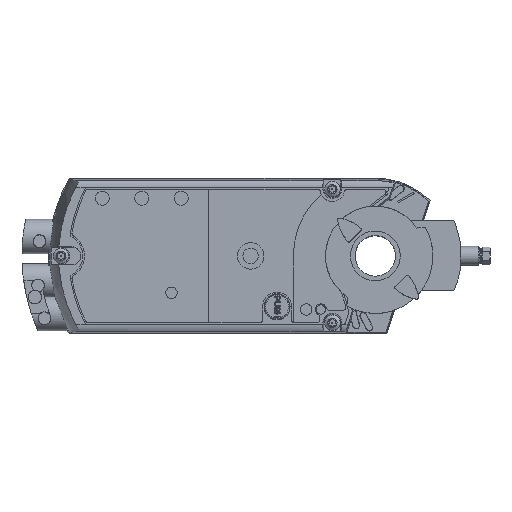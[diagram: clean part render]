
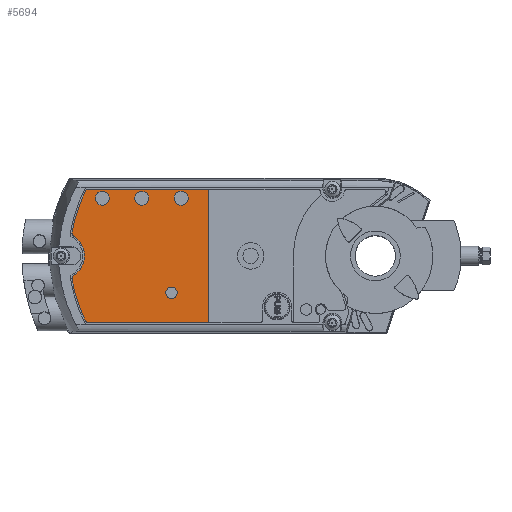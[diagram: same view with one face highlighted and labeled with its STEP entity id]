
A CAD part, top view. The second image highlights one B-rep face of the part: STEP entity #5694.
In plain terms, the highlighted planar face has unit normal (0, 0, 1).
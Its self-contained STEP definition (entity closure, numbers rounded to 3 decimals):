
#5694=ADVANCED_FACE('',(#7359,#7360,#7361,#7362,#7363),#6120,.T.);
#6120=PLANE('',#14474);
#6210=LINE('',#17578,#6731);
#6565=LINE('',#21247,#7086);
#6574=LINE('',#21279,#7095);
#6731=VECTOR('',#14972,1.);
#7086=VECTOR('',#16393,1.);
#7095=VECTOR('',#16432,1.);
#7359=FACE_BOUND('',#7815,.T.);
#7360=FACE_BOUND('',#7816,.T.);
#7361=FACE_BOUND('',#7817,.T.);
#7362=FACE_BOUND('',#7818,.T.);
#7363=FACE_BOUND('',#7819,.T.);
#7815=EDGE_LOOP('',(#9728,#9729,#9730,#9731,#9732,#9733,#9734,#9735,#9736,
#9737));
#7816=EDGE_LOOP('',(#9738));
#7817=EDGE_LOOP('',(#9739));
#7818=EDGE_LOOP('',(#9740));
#7819=EDGE_LOOP('',(#9741));
#9728=ORIENTED_EDGE('',*,*,#11972,.F.);
#9729=ORIENTED_EDGE('',*,*,#12751,.F.);
#9730=ORIENTED_EDGE('',*,*,#12749,.T.);
#9731=ORIENTED_EDGE('',*,*,#12747,.T.);
#9732=ORIENTED_EDGE('',*,*,#12745,.T.);
#9733=ORIENTED_EDGE('',*,*,#12743,.F.);
#9734=ORIENTED_EDGE('',*,*,#12741,.T.);
#9735=ORIENTED_EDGE('',*,*,#12739,.T.);
#9736=ORIENTED_EDGE('',*,*,#12737,.T.);
#9737=ORIENTED_EDGE('',*,*,#12735,.T.);
#9738=ORIENTED_EDGE('',*,*,#12767,.F.);
#9739=ORIENTED_EDGE('',*,*,#12768,.F.);
#9740=ORIENTED_EDGE('',*,*,#12769,.F.);
#9741=ORIENTED_EDGE('',*,*,#12770,.T.);
#11029=VERTEX_POINT('',#17577);
#11030=VERTEX_POINT('',#17579);
#11549=VERTEX_POINT('',#21248);
#11550=VERTEX_POINT('',#21252);
#11551=VERTEX_POINT('',#21256);
#11552=VERTEX_POINT('',#21260);
#11553=VERTEX_POINT('',#21264);
#11554=VERTEX_POINT('',#21268);
#11555=VERTEX_POINT('',#21272);
#11556=VERTEX_POINT('',#21276);
#11559=VERTEX_POINT('',#21314);
#11560=VERTEX_POINT('',#21316);
#11561=VERTEX_POINT('',#21318);
#11562=VERTEX_POINT('',#21320);
#11972=EDGE_CURVE('',#11029,#11030,#6210,.T.);
#12735=EDGE_CURVE('',#11549,#11030,#6565,.T.);
#12737=EDGE_CURVE('',#11550,#11549,#13640,.T.);
#12739=EDGE_CURVE('',#11551,#11550,#13641,.T.);
#12741=EDGE_CURVE('',#11552,#11551,#13642,.T.);
#12743=EDGE_CURVE('',#11552,#11553,#13643,.T.);
#12745=EDGE_CURVE('',#11554,#11553,#13644,.T.);
#12747=EDGE_CURVE('',#11555,#11554,#13645,.T.);
#12749=EDGE_CURVE('',#11556,#11555,#13646,.T.);
#12751=EDGE_CURVE('',#11556,#11029,#6574,.T.);
#12767=EDGE_CURVE('',#11559,#11559,#13649,.T.);
#12768=EDGE_CURVE('',#11560,#11560,#13650,.T.);
#12769=EDGE_CURVE('',#11561,#11561,#13651,.T.);
#12770=EDGE_CURVE('',#11562,#11562,#13652,.T.);
#13640=CIRCLE('',#14438,2.);
#13641=CIRCLE('',#14440,93.5);
#13642=CIRCLE('',#14442,2.);
#13643=CIRCLE('',#14444,15.);
#13644=CIRCLE('',#14446,2.);
#13645=CIRCLE('',#14448,93.5);
#13646=CIRCLE('',#14450,2.);
#13649=CIRCLE('',#14470,4.5);
#13650=CIRCLE('',#14471,4.5);
#13651=CIRCLE('',#14472,4.5);
#13652=CIRCLE('',#14473,3.7);
#14438=AXIS2_PLACEMENT_3D('',#21251,#16397,#16398);
#14440=AXIS2_PLACEMENT_3D('',#21255,#16402,#16403);
#14442=AXIS2_PLACEMENT_3D('',#21259,#16407,#16408);
#14444=AXIS2_PLACEMENT_3D('',#21263,#16412,#16413);
#14446=AXIS2_PLACEMENT_3D('',#21267,#16417,#16418);
#14448=AXIS2_PLACEMENT_3D('',#21271,#16422,#16423);
#14450=AXIS2_PLACEMENT_3D('',#21275,#16427,#16428);
#14470=AXIS2_PLACEMENT_3D('',#21313,#16482,#16483);
#14471=AXIS2_PLACEMENT_3D('',#21315,#16484,#16485);
#14472=AXIS2_PLACEMENT_3D('',#21317,#16486,#16487);
#14473=AXIS2_PLACEMENT_3D('',#21319,#16488,#16489);
#14474=AXIS2_PLACEMENT_3D('',#21321,#16490,#16491);
#14972=DIRECTION('',(0.,-1.,0.));
#16393=DIRECTION('',(1.,0.,0.));
#16397=DIRECTION('',(0.,0.,1.));
#16398=DIRECTION('',(1.,0.,0.));
#16402=DIRECTION('',(0.,0.,1.));
#16403=DIRECTION('',(1.,0.,0.));
#16407=DIRECTION('',(0.,0.,1.));
#16408=DIRECTION('',(1.,0.,0.));
#16412=DIRECTION('',(0.,0.,1.));
#16413=DIRECTION('',(1.,0.,0.));
#16417=DIRECTION('',(0.,0.,1.));
#16418=DIRECTION('',(1.,0.,0.));
#16422=DIRECTION('',(0.,0.,1.));
#16423=DIRECTION('',(1.,0.,0.));
#16427=DIRECTION('',(0.,0.,1.));
#16428=DIRECTION('',(1.,0.,0.));
#16432=DIRECTION('',(1.,0.,0.));
#16482=DIRECTION('',(0.,0.,1.));
#16483=DIRECTION('',(1.,0.,0.));
#16484=DIRECTION('',(0.,0.,1.));
#16485=DIRECTION('',(1.,0.,0.));
#16486=DIRECTION('',(0.,0.,1.));
#16487=DIRECTION('',(1.,0.,0.));
#16488=DIRECTION('',(0.,0.,-1.));
#16489=DIRECTION('',(1.,0.,0.));
#16490=DIRECTION('',(0.,0.,1.));
#16491=DIRECTION('',(1.,0.,0.));
#17577=CARTESIAN_POINT('',(-106.998,43.,28.15));
#17578=CARTESIAN_POINT('',(-106.998,77.,28.15));
#17579=CARTESIAN_POINT('',(-106.998,-43.,28.15));
#21247=CARTESIAN_POINT('',(-184.41,-43.,28.15));
#21248=CARTESIAN_POINT('',(-184.41,-43.,28.15));
#21251=CARTESIAN_POINT('',(-184.41,-41.,28.15));
#21252=CARTESIAN_POINT('',(-186.198,-41.896,28.15));
#21255=CARTESIAN_POINT('',(-102.61,0.,28.15));
#21256=CARTESIAN_POINT('',(-194.944,-14.719,28.15));
#21259=CARTESIAN_POINT('',(-192.969,-14.404,28.15));
#21260=CARTESIAN_POINT('',(-194.031,-12.709,28.15));
#21263=CARTESIAN_POINT('',(-201.998,0.,28.15));
#21264=CARTESIAN_POINT('',(-194.031,12.709,28.15));
#21267=CARTESIAN_POINT('',(-192.969,14.404,28.15));
#21268=CARTESIAN_POINT('',(-194.944,14.719,28.15));
#21271=CARTESIAN_POINT('',(-102.61,0.,28.15));
#21272=CARTESIAN_POINT('',(-186.198,41.896,28.15));
#21275=CARTESIAN_POINT('',(-184.41,41.,28.15));
#21276=CARTESIAN_POINT('',(-184.41,43.,28.15));
#21279=CARTESIAN_POINT('',(-184.41,43.,28.15));
#21313=CARTESIAN_POINT('',(-175.41,37.,28.15));
#21314=CARTESIAN_POINT('',(-170.91,37.,28.15));
#21315=CARTESIAN_POINT('',(-150.11,37.,28.15));
#21316=CARTESIAN_POINT('',(-145.61,37.,28.15));
#21317=CARTESIAN_POINT('',(-124.81,37.,28.15));
#21318=CARTESIAN_POINT('',(-120.31,37.,28.15));
#21319=CARTESIAN_POINT('',(-131.01,-23.8,28.15));
#21320=CARTESIAN_POINT('',(-127.31,-23.8,28.15));
#21321=CARTESIAN_POINT('',(-175.41,37.,28.15));
